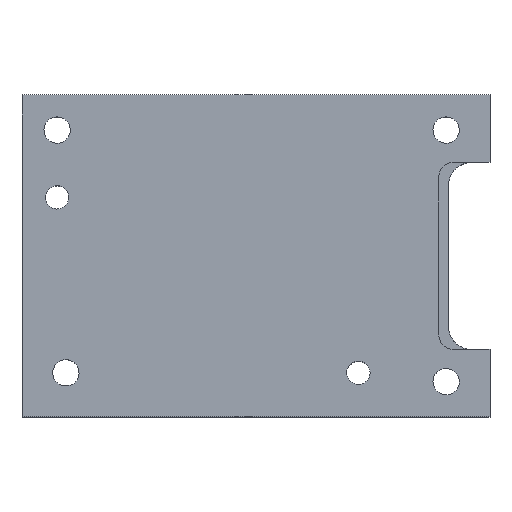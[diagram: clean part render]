
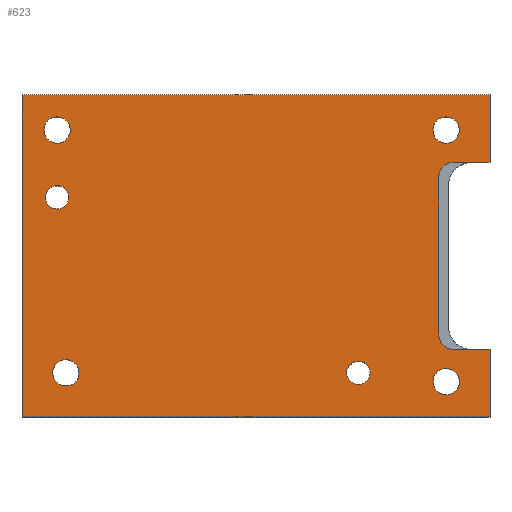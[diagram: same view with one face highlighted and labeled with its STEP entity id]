
A CAD part, top view. The second image highlights one B-rep face of the part: STEP entity #623.
In plain terms, the highlighted planar face has unit normal (0, 0, 1).
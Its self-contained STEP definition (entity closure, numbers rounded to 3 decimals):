
#133=AXIS2_PLACEMENT_3D('Circle Axis2P3D',#131,#132,$) ;
#160=AXIS2_PLACEMENT_3D('Circle Axis2P3D',#158,#159,$) ;
#445=AXIS2_PLACEMENT_3D('Plane Axis2P3D',#442,#443,#444) ;
#500=AXIS2_PLACEMENT_3D('Circle Axis2P3D',#498,#499,$) ;
#514=AXIS2_PLACEMENT_3D('Circle Axis2P3D',#512,#513,$) ;
#535=AXIS2_PLACEMENT_3D('Circle Axis2P3D',#533,#534,$) ;
#544=AXIS2_PLACEMENT_3D('Circle Axis2P3D',#542,#543,$) ;
#553=AXIS2_PLACEMENT_3D('Circle Axis2P3D',#551,#552,$) ;
#562=AXIS2_PLACEMENT_3D('Circle Axis2P3D',#560,#561,$) ;
#571=AXIS2_PLACEMENT_3D('Circle Axis2P3D',#569,#570,$) ;
#580=AXIS2_PLACEMENT_3D('Circle Axis2P3D',#578,#579,$) ;
#589=AXIS2_PLACEMENT_3D('Circle Axis2P3D',#587,#588,$) ;
#598=AXIS2_PLACEMENT_3D('Circle Axis2P3D',#596,#597,$) ;
#607=AXIS2_PLACEMENT_3D('Circle Axis2P3D',#605,#606,$) ;
#616=AXIS2_PLACEMENT_3D('Circle Axis2P3D',#614,#615,$) ;
#131=CARTESIAN_POINT('Axis2P3D Location',(-148.,43.,45.)) ;
#135=CARTESIAN_POINT('Vertex',(-144.051,45.157,45.)) ;
#137=CARTESIAN_POINT('Vertex',(-151.949,40.843,45.)) ;
#158=CARTESIAN_POINT('Axis2P3D Location',(-148.,43.,45.)) ;
#442=CARTESIAN_POINT('Axis2P3D Location',(0.,0.,45.)) ;
#447=CARTESIAN_POINT('Line Origine',(-6.25,32.,45.)) ;
#451=CARTESIAN_POINT('Vertex',(-12.5,32.,45.)) ;
#453=CARTESIAN_POINT('Vertex',(0.,32.,45.)) ;
#456=CARTESIAN_POINT('Line Origine',(0.,43.5,45.)) ;
#460=CARTESIAN_POINT('Vertex',(0.,55.,45.)) ;
#463=CARTESIAN_POINT('Line Origine',(-80.,55.,45.)) ;
#467=CARTESIAN_POINT('Vertex',(-160.,55.,45.)) ;
#470=CARTESIAN_POINT('Line Origine',(-160.,0.,45.)) ;
#474=CARTESIAN_POINT('Vertex',(-160.,-55.,45.)) ;
#477=CARTESIAN_POINT('Line Origine',(-80.,-55.,45.)) ;
#481=CARTESIAN_POINT('Vertex',(0.,-55.,45.)) ;
#484=CARTESIAN_POINT('Line Origine',(0.,-43.5,45.)) ;
#488=CARTESIAN_POINT('Vertex',(0.,-32.,45.)) ;
#491=CARTESIAN_POINT('Line Origine',(-6.25,-32.,45.)) ;
#495=CARTESIAN_POINT('Vertex',(-12.5,-32.,45.)) ;
#498=CARTESIAN_POINT('Axis2P3D Location',(-12.5,-27.,45.)) ;
#502=CARTESIAN_POINT('Vertex',(-17.5,-27.,45.)) ;
#505=CARTESIAN_POINT('Line Origine',(-17.5,0.,45.)) ;
#509=CARTESIAN_POINT('Vertex',(-17.5,27.,45.)) ;
#512=CARTESIAN_POINT('Axis2P3D Location',(-12.5,27.,45.)) ;
#533=CARTESIAN_POINT('Axis2P3D Location',(-45.,-40.,45.)) ;
#537=CARTESIAN_POINT('Vertex',(-48.51,-41.918,45.)) ;
#539=CARTESIAN_POINT('Vertex',(-41.49,-38.082,45.)) ;
#542=CARTESIAN_POINT('Axis2P3D Location',(-45.,-40.,45.)) ;
#551=CARTESIAN_POINT('Axis2P3D Location',(-148.,20.,45.)) ;
#555=CARTESIAN_POINT('Vertex',(-144.49,21.918,45.)) ;
#557=CARTESIAN_POINT('Vertex',(-151.51,18.082,45.)) ;
#560=CARTESIAN_POINT('Axis2P3D Location',(-148.,20.,45.)) ;
#569=CARTESIAN_POINT('Axis2P3D Location',(-145.,-40.,45.)) ;
#573=CARTESIAN_POINT('Vertex',(-148.949,-42.157,45.)) ;
#575=CARTESIAN_POINT('Vertex',(-141.051,-37.843,45.)) ;
#578=CARTESIAN_POINT('Axis2P3D Location',(-145.,-40.,45.)) ;
#587=CARTESIAN_POINT('Axis2P3D Location',(-15.,-43.,45.)) ;
#591=CARTESIAN_POINT('Vertex',(-18.949,-45.157,45.)) ;
#593=CARTESIAN_POINT('Vertex',(-11.051,-40.843,45.)) ;
#596=CARTESIAN_POINT('Axis2P3D Location',(-15.,-43.,45.)) ;
#605=CARTESIAN_POINT('Axis2P3D Location',(-15.,43.,45.)) ;
#609=CARTESIAN_POINT('Vertex',(-18.949,40.843,45.)) ;
#611=CARTESIAN_POINT('Vertex',(-11.051,45.157,45.)) ;
#614=CARTESIAN_POINT('Axis2P3D Location',(-15.,43.,45.)) ;
#132=DIRECTION('Axis2P3D Direction',(0.,-0.,1.)) ;
#159=DIRECTION('Axis2P3D Direction',(0.,-0.,1.)) ;
#443=DIRECTION('Axis2P3D Direction',(0.,0.,1.)) ;
#444=DIRECTION('Axis2P3D XDirection',(1.,0.,0.)) ;
#448=DIRECTION('Vector Direction',(1.,0.,0.)) ;
#457=DIRECTION('Vector Direction',(0.,-1.,0.)) ;
#464=DIRECTION('Vector Direction',(-1.,0.,0.)) ;
#471=DIRECTION('Vector Direction',(0.,1.,0.)) ;
#478=DIRECTION('Vector Direction',(1.,0.,0.)) ;
#485=DIRECTION('Vector Direction',(0.,-1.,0.)) ;
#492=DIRECTION('Vector Direction',(-1.,0.,0.)) ;
#499=DIRECTION('Axis2P3D Direction',(0.,0.,1.)) ;
#506=DIRECTION('Vector Direction',(0.,1.,0.)) ;
#513=DIRECTION('Axis2P3D Direction',(0.,0.,1.)) ;
#534=DIRECTION('Axis2P3D Direction',(0.,0.,1.)) ;
#543=DIRECTION('Axis2P3D Direction',(0.,0.,1.)) ;
#552=DIRECTION('Axis2P3D Direction',(0.,0.,1.)) ;
#561=DIRECTION('Axis2P3D Direction',(0.,0.,1.)) ;
#570=DIRECTION('Axis2P3D Direction',(0.,0.,1.)) ;
#579=DIRECTION('Axis2P3D Direction',(0.,0.,1.)) ;
#588=DIRECTION('Axis2P3D Direction',(0.,0.,1.)) ;
#597=DIRECTION('Axis2P3D Direction',(0.,0.,1.)) ;
#606=DIRECTION('Axis2P3D Direction',(0.,0.,1.)) ;
#615=DIRECTION('Axis2P3D Direction',(0.,0.,1.)) ;
#449=VECTOR('Line Direction',#448,1.) ;
#458=VECTOR('Line Direction',#457,1.) ;
#465=VECTOR('Line Direction',#464,1.) ;
#472=VECTOR('Line Direction',#471,1.) ;
#479=VECTOR('Line Direction',#478,1.) ;
#486=VECTOR('Line Direction',#485,1.) ;
#493=VECTOR('Line Direction',#492,1.) ;
#507=VECTOR('Line Direction',#506,1.) ;
#518=ORIENTED_EDGE('',*,*,#455,.T.) ;
#519=ORIENTED_EDGE('',*,*,#462,.T.) ;
#520=ORIENTED_EDGE('',*,*,#469,.T.) ;
#521=ORIENTED_EDGE('',*,*,#476,.T.) ;
#522=ORIENTED_EDGE('',*,*,#483,.T.) ;
#523=ORIENTED_EDGE('',*,*,#490,.T.) ;
#524=ORIENTED_EDGE('',*,*,#497,.T.) ;
#525=ORIENTED_EDGE('',*,*,#504,.F.) ;
#526=ORIENTED_EDGE('',*,*,#511,.T.) ;
#527=ORIENTED_EDGE('',*,*,#516,.F.) ;
#530=ORIENTED_EDGE('',*,*,#139,.F.) ;
#531=ORIENTED_EDGE('',*,*,#162,.F.) ;
#548=ORIENTED_EDGE('',*,*,#541,.F.) ;
#549=ORIENTED_EDGE('',*,*,#546,.F.) ;
#566=ORIENTED_EDGE('',*,*,#559,.F.) ;
#567=ORIENTED_EDGE('',*,*,#564,.F.) ;
#584=ORIENTED_EDGE('',*,*,#577,.F.) ;
#585=ORIENTED_EDGE('',*,*,#582,.F.) ;
#602=ORIENTED_EDGE('',*,*,#595,.F.) ;
#603=ORIENTED_EDGE('',*,*,#600,.F.) ;
#620=ORIENTED_EDGE('',*,*,#613,.F.) ;
#621=ORIENTED_EDGE('',*,*,#618,.F.) ;
#532=FACE_BOUND('',#529,.T.) ;
#550=FACE_BOUND('',#547,.T.) ;
#568=FACE_BOUND('',#565,.T.) ;
#586=FACE_BOUND('',#583,.T.) ;
#604=FACE_BOUND('',#601,.T.) ;
#622=FACE_BOUND('',#619,.T.) ;
#623=ADVANCED_FACE('Body.4',(#528,#532,#550,#568,#586,#604,#622),#446,.T.) ;
#134=CIRCLE('generated circle',#133,4.5) ;
#161=CIRCLE('generated circle',#160,4.5) ;
#501=CIRCLE('generated circle',#500,5.) ;
#515=CIRCLE('generated circle',#514,5.) ;
#536=CIRCLE('generated circle',#535,4.) ;
#545=CIRCLE('generated circle',#544,4.) ;
#554=CIRCLE('generated circle',#553,4.) ;
#563=CIRCLE('generated circle',#562,4.) ;
#572=CIRCLE('generated circle',#571,4.5) ;
#581=CIRCLE('generated circle',#580,4.5) ;
#590=CIRCLE('generated circle',#589,4.5) ;
#599=CIRCLE('generated circle',#598,4.5) ;
#608=CIRCLE('generated circle',#607,4.5) ;
#617=CIRCLE('generated circle',#616,4.5) ;
#139=EDGE_CURVE('',#136,#138,#134,.T.) ;
#162=EDGE_CURVE('',#138,#136,#161,.T.) ;
#455=EDGE_CURVE('',#452,#454,#450,.T.) ;
#462=EDGE_CURVE('',#454,#461,#459,.F.) ;
#469=EDGE_CURVE('',#461,#468,#466,.T.) ;
#476=EDGE_CURVE('',#468,#475,#473,.F.) ;
#483=EDGE_CURVE('',#475,#482,#480,.T.) ;
#490=EDGE_CURVE('',#482,#489,#487,.F.) ;
#497=EDGE_CURVE('',#489,#496,#494,.T.) ;
#504=EDGE_CURVE('',#503,#496,#501,.T.) ;
#511=EDGE_CURVE('',#503,#510,#508,.T.) ;
#516=EDGE_CURVE('',#452,#510,#515,.T.) ;
#541=EDGE_CURVE('',#538,#540,#536,.T.) ;
#546=EDGE_CURVE('',#540,#538,#545,.T.) ;
#559=EDGE_CURVE('',#556,#558,#554,.T.) ;
#564=EDGE_CURVE('',#558,#556,#563,.T.) ;
#577=EDGE_CURVE('',#574,#576,#572,.T.) ;
#582=EDGE_CURVE('',#576,#574,#581,.T.) ;
#595=EDGE_CURVE('',#592,#594,#590,.T.) ;
#600=EDGE_CURVE('',#594,#592,#599,.T.) ;
#613=EDGE_CURVE('',#610,#612,#608,.T.) ;
#618=EDGE_CURVE('',#612,#610,#617,.T.) ;
#517=EDGE_LOOP('',(#518,#519,#520,#521,#522,#523,#524,#525,#526,#527)) ;
#529=EDGE_LOOP('',(#530,#531)) ;
#547=EDGE_LOOP('',(#548,#549)) ;
#565=EDGE_LOOP('',(#566,#567)) ;
#583=EDGE_LOOP('',(#584,#585)) ;
#601=EDGE_LOOP('',(#602,#603)) ;
#619=EDGE_LOOP('',(#620,#621)) ;
#528=FACE_OUTER_BOUND('',#517,.T.) ;
#450=LINE('Line',#447,#449) ;
#459=LINE('Line',#456,#458) ;
#466=LINE('Line',#463,#465) ;
#473=LINE('Line',#470,#472) ;
#480=LINE('Line',#477,#479) ;
#487=LINE('Line',#484,#486) ;
#494=LINE('Line',#491,#493) ;
#508=LINE('Line',#505,#507) ;
#446=PLANE('',#445) ;
#136=VERTEX_POINT('',#135) ;
#138=VERTEX_POINT('',#137) ;
#452=VERTEX_POINT('',#451) ;
#454=VERTEX_POINT('',#453) ;
#461=VERTEX_POINT('',#460) ;
#468=VERTEX_POINT('',#467) ;
#475=VERTEX_POINT('',#474) ;
#482=VERTEX_POINT('',#481) ;
#489=VERTEX_POINT('',#488) ;
#496=VERTEX_POINT('',#495) ;
#503=VERTEX_POINT('',#502) ;
#510=VERTEX_POINT('',#509) ;
#538=VERTEX_POINT('',#537) ;
#540=VERTEX_POINT('',#539) ;
#556=VERTEX_POINT('',#555) ;
#558=VERTEX_POINT('',#557) ;
#574=VERTEX_POINT('',#573) ;
#576=VERTEX_POINT('',#575) ;
#592=VERTEX_POINT('',#591) ;
#594=VERTEX_POINT('',#593) ;
#610=VERTEX_POINT('',#609) ;
#612=VERTEX_POINT('',#611) ;
